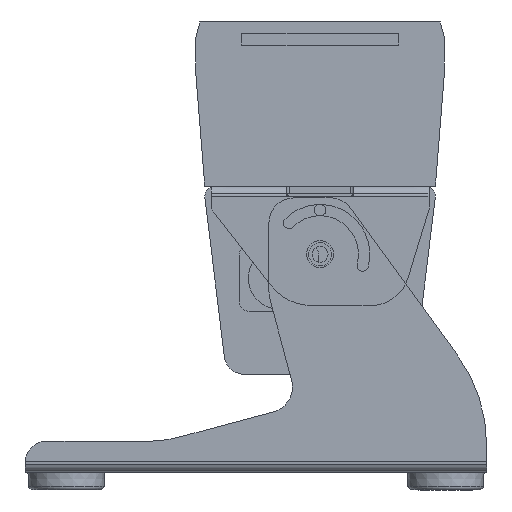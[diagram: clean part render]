
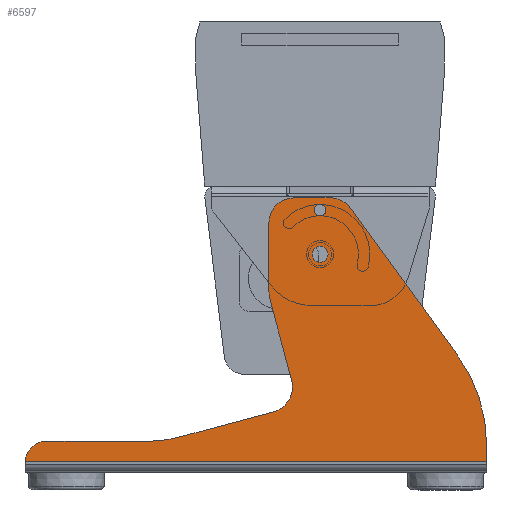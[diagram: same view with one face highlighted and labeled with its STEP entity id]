
A CAD part, left-side view. The second image highlights one B-rep face of the part: STEP entity #6597.
In plain terms, the highlighted planar face has unit normal (-1, 0, 0).
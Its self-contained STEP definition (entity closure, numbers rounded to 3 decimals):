
#609=CIRCLE('',#8305,2.25);
#610=CIRCLE('',#8306,3.1);
#611=CIRCLE('',#8307,10.);
#612=CIRCLE('',#8308,10.);
#613=CIRCLE('',#8309,20.);
#614=CIRCLE('',#8310,10.);
#615=CIRCLE('',#8311,50.);
#616=CIRCLE('',#8312,8.);
#617=CIRCLE('',#8313,60.);
#2205=ORIENTED_EDGE('',*,*,#3278,.F.);
#2206=ORIENTED_EDGE('',*,*,#3279,.F.);
#2207=ORIENTED_EDGE('',*,*,#3280,.T.);
#2208=ORIENTED_EDGE('',*,*,#3281,.T.);
#2209=ORIENTED_EDGE('',*,*,#3282,.T.);
#2210=ORIENTED_EDGE('',*,*,#3283,.T.);
#2211=ORIENTED_EDGE('',*,*,#3284,.T.);
#2212=ORIENTED_EDGE('',*,*,#3285,.T.);
#2213=ORIENTED_EDGE('',*,*,#3286,.T.);
#2214=ORIENTED_EDGE('',*,*,#3287,.T.);
#2215=ORIENTED_EDGE('',*,*,#3288,.T.);
#2216=ORIENTED_EDGE('',*,*,#3289,.T.);
#2217=ORIENTED_EDGE('',*,*,#3290,.T.);
#2218=ORIENTED_EDGE('',*,*,#3291,.T.);
#2219=ORIENTED_EDGE('',*,*,#3292,.T.);
#2220=ORIENTED_EDGE('',*,*,#3260,.T.);
#2221=ORIENTED_EDGE('',*,*,#3293,.T.);
#3260=EDGE_CURVE('',#3939,#3938,#4471,.T.);
#3278=EDGE_CURVE('',#3955,#3955,#609,.T.);
#3279=EDGE_CURVE('',#3956,#3956,#610,.T.);
#3280=EDGE_CURVE('',#3957,#3958,#4479,.T.);
#3281=EDGE_CURVE('',#3958,#3959,#611,.F.);
#3282=EDGE_CURVE('',#3959,#3960,#4480,.T.);
#3283=EDGE_CURVE('',#3960,#3961,#612,.F.);
#3284=EDGE_CURVE('',#3961,#3962,#4481,.T.);
#3285=EDGE_CURVE('',#3962,#3963,#613,.F.);
#3286=EDGE_CURVE('',#3963,#3964,#4482,.T.);
#3287=EDGE_CURVE('',#3964,#3965,#614,.T.);
#3288=EDGE_CURVE('',#3965,#3966,#4483,.T.);
#3289=EDGE_CURVE('',#3966,#3967,#615,.T.);
#3290=EDGE_CURVE('',#3967,#3968,#4484,.T.);
#3291=EDGE_CURVE('',#3968,#3969,#616,.F.);
#3292=EDGE_CURVE('',#3969,#3939,#4485,.T.);
#3293=EDGE_CURVE('',#3938,#3957,#617,.F.);
#3938=VERTEX_POINT('',#12223);
#3939=VERTEX_POINT('',#12225);
#3955=VERTEX_POINT('',#12261);
#3956=VERTEX_POINT('',#12263);
#3957=VERTEX_POINT('',#12265);
#3958=VERTEX_POINT('',#12266);
#3959=VERTEX_POINT('',#12268);
#3960=VERTEX_POINT('',#12270);
#3961=VERTEX_POINT('',#12272);
#3962=VERTEX_POINT('',#12274);
#3963=VERTEX_POINT('',#12276);
#3964=VERTEX_POINT('',#12278);
#3965=VERTEX_POINT('',#12280);
#3966=VERTEX_POINT('',#12282);
#3967=VERTEX_POINT('',#12284);
#3968=VERTEX_POINT('',#12286);
#3969=VERTEX_POINT('',#12288);
#4471=LINE('',#12224,#5005);
#4479=LINE('',#12264,#5013);
#4480=LINE('',#12269,#5014);
#4481=LINE('',#12273,#5015);
#4482=LINE('',#12277,#5016);
#4483=LINE('',#12281,#5017);
#4484=LINE('',#12285,#5018);
#4485=LINE('',#12289,#5019);
#5005=VECTOR('',#10130,1000.);
#5013=VECTOR('',#10166,1000.);
#5014=VECTOR('',#10169,1000.);
#5015=VECTOR('',#10172,1000.);
#5016=VECTOR('',#10175,1000.);
#5017=VECTOR('',#10178,1000.);
#5018=VECTOR('',#10181,1000.);
#5019=VECTOR('',#10184,1000.);
#5492=EDGE_LOOP('',(#2205));
#5493=EDGE_LOOP('',(#2206));
#5494=EDGE_LOOP('',(#2207,#2208,#2209,#2210,#2211,#2212,#2213,#2214,#2215,
#2216,#2217,#2218,#2219,#2220,#2221));
#6030=FACE_BOUND('',#5492,.T.);
#6031=FACE_BOUND('',#5493,.T.);
#6032=FACE_BOUND('',#5494,.T.);
#6280=PLANE('',#8304);
#6597=ADVANCED_FACE('',(#6030,#6031,#6032),#6280,.F.);
#8304=AXIS2_PLACEMENT_3D('',#12259,#10160,#10161);
#8305=AXIS2_PLACEMENT_3D('',#12260,#10162,#10163);
#8306=AXIS2_PLACEMENT_3D('',#12262,#10164,#10165);
#8307=AXIS2_PLACEMENT_3D('',#12267,#10167,#10168);
#8308=AXIS2_PLACEMENT_3D('',#12271,#10170,#10171);
#8309=AXIS2_PLACEMENT_3D('',#12275,#10173,#10174);
#8310=AXIS2_PLACEMENT_3D('',#12279,#10176,#10177);
#8311=AXIS2_PLACEMENT_3D('',#12283,#10179,#10180);
#8312=AXIS2_PLACEMENT_3D('',#12287,#10182,#10183);
#8313=AXIS2_PLACEMENT_3D('',#12290,#10185,#10186);
#10130=DIRECTION('',(0.,0.,1.));
#10160=DIRECTION('',(1.,0.,0.));
#10161=DIRECTION('',(0.,0.,-1.));
#10162=DIRECTION('',(-1.,0.,0.));
#10163=DIRECTION('',(0.,-1.,0.));
#10164=DIRECTION('',(-1.,0.,0.));
#10165=DIRECTION('',(0.,-1.,0.));
#10166=DIRECTION('',(0.,0.588,0.809));
#10167=DIRECTION('',(1.,0.,0.));
#10168=DIRECTION('',(0.,0.,-1.));
#10169=DIRECTION('',(0.,1.,0.));
#10170=DIRECTION('',(1.,0.,0.));
#10171=DIRECTION('',(0.,0.,-1.));
#10172=DIRECTION('',(0.,0.,-1.));
#10173=DIRECTION('',(1.,0.,0.));
#10174=DIRECTION('',(0.,0.,-1.));
#10175=DIRECTION('',(0.,-0.259,-0.966));
#10176=DIRECTION('',(1.,0.,0.));
#10177=DIRECTION('',(0.,0.,-1.));
#10178=DIRECTION('',(0.,0.966,-0.259));
#10179=DIRECTION('',(1.,0.,0.));
#10180=DIRECTION('',(0.,0.,-1.));
#10181=DIRECTION('',(0.,1.,0.));
#10182=DIRECTION('',(1.,0.,0.));
#10183=DIRECTION('',(0.,0.,-1.));
#10184=DIRECTION('',(0.,-1.,0.));
#10185=DIRECTION('',(1.,0.,0.));
#10186=DIRECTION('',(0.,0.,-1.));
#12223=CARTESIAN_POINT('',(0.,-65.,-74.573));
#12224=CARTESIAN_POINT('',(0.,-65.,-163.126));
#12225=CARTESIAN_POINT('',(0.,-65.,-81.));
#12259=CARTESIAN_POINT('',(0.,125.,25.));
#12260=CARTESIAN_POINT('',(0.,0.,17.2));
#12261=CARTESIAN_POINT('',(0.,-2.25,17.2));
#12262=CARTESIAN_POINT('',(0.,0.,0.));
#12263=CARTESIAN_POINT('',(0.,-3.1,0.));
#12264=CARTESIAN_POINT('',(0.,-65.,-55.077));
#12265=CARTESIAN_POINT('',(0.,-53.541,-39.305));
#12266=CARTESIAN_POINT('',(0.,-11.995,17.878));
#12267=CARTESIAN_POINT('',(0.,-3.905,12.));
#12268=CARTESIAN_POINT('',(0.,-3.905,22.));
#12269=CARTESIAN_POINT('',(0.,-9.,22.));
#12270=CARTESIAN_POINT('',(0.,10.,22.));
#12271=CARTESIAN_POINT('',(0.,10.,12.));
#12272=CARTESIAN_POINT('',(0.,20.,12.));
#12273=CARTESIAN_POINT('',(0.,20.,22.));
#12274=CARTESIAN_POINT('',(0.,20.,-13.367));
#12275=CARTESIAN_POINT('',(0.,0.,-13.367));
#12276=CARTESIAN_POINT('',(0.,19.319,-18.543));
#12277=CARTESIAN_POINT('',(0.,20.,-16.));
#12278=CARTESIAN_POINT('',(0.,11.088,-49.259));
#12279=CARTESIAN_POINT('',(0.,20.747,-51.848));
#12280=CARTESIAN_POINT('',(0.,18.159,-61.507));
#12281=CARTESIAN_POINT('',(0.,8.5,-58.919));
#12282=CARTESIAN_POINT('',(0.,54.694,-71.296));
#12283=CARTESIAN_POINT('',(0.,67.635,-23.));
#12284=CARTESIAN_POINT('',(0.,67.635,-73.));
#12285=CARTESIAN_POINT('',(0.,61.053,-73.));
#12286=CARTESIAN_POINT('',(0.,107.,-73.));
#12287=CARTESIAN_POINT('',(0.,107.,-81.));
#12288=CARTESIAN_POINT('',(0.,115.,-81.));
#12289=CARTESIAN_POINT('',(0.,125.,-81.));
#12290=CARTESIAN_POINT('',(0.,-5.,-74.573));
